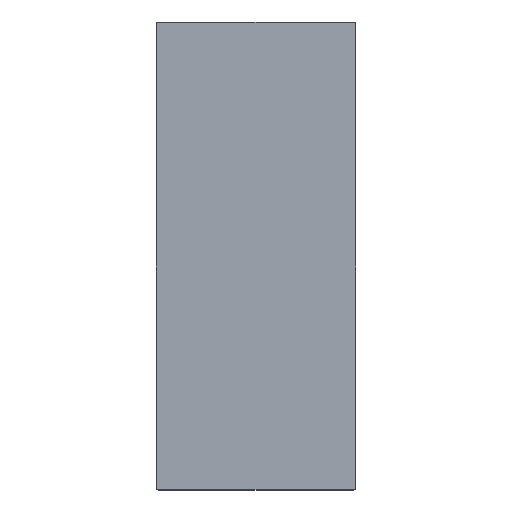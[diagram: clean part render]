
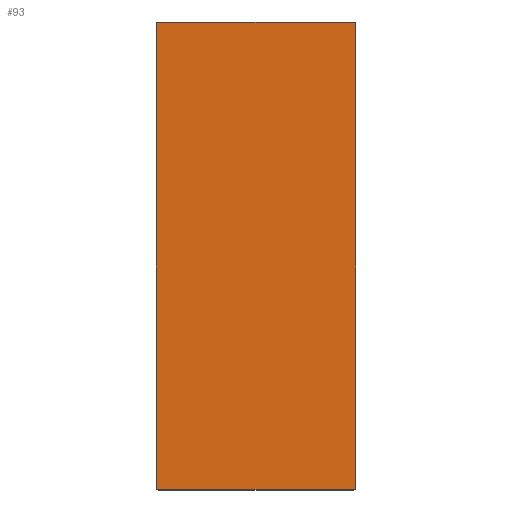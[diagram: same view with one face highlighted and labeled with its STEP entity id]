
A CAD part, top view. The second image highlights one B-rep face of the part: STEP entity #93.
In plain terms, the highlighted planar face has unit normal (0, 0, 1) as drawn and (0, 0, -1) by its records, which use the part's own axes.
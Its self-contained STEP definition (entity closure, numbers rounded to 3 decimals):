
#93 = ADVANCED_FACE( '', ( #210 ), #211, .F. );
#210 = FACE_OUTER_BOUND( '', #350, .T. );
#211 = PLANE( '', #351 );
#350 = EDGE_LOOP( '', ( #488, #489, #490, #491, #492, #493, #494, #495, #496, #497, #498, #499 ) );
#351 = AXIS2_PLACEMENT_3D( '', #500, #501, #502 );
#488 = ORIENTED_EDGE( '', *, *, #891, .T. );
#489 = ORIENTED_EDGE( '', *, *, #892, .F. );
#490 = ORIENTED_EDGE( '', *, *, #893, .T. );
#491 = ORIENTED_EDGE( '', *, *, #894, .T. );
#492 = ORIENTED_EDGE( '', *, *, #895, .T. );
#493 = ORIENTED_EDGE( '', *, *, #896, .F. );
#494 = ORIENTED_EDGE( '', *, *, #897, .T. );
#495 = ORIENTED_EDGE( '', *, *, #898, .T. );
#496 = ORIENTED_EDGE( '', *, *, #899, .F. );
#497 = ORIENTED_EDGE( '', *, *, #900, .F. );
#498 = ORIENTED_EDGE( '', *, *, #901, .T. );
#499 = ORIENTED_EDGE( '', *, *, #902, .T. );
#500 = CARTESIAN_POINT( '', ( 447., 1047., 0. ) );
#501 = DIRECTION( '', ( 0., 0., 1. ) );
#502 = DIRECTION( '', ( 1., 0., 0. ) );
#891 = EDGE_CURVE( '', #1061, #1062, #1063, .T. );
#892 = EDGE_CURVE( '', #1064, #1062, #1065, .T. );
#893 = EDGE_CURVE( '', #1064, #1066, #1067, .T. );
#894 = EDGE_CURVE( '', #1066, #1068, #1069, .T. );
#895 = EDGE_CURVE( '', #1068, #1070, #1071, .T. );
#896 = EDGE_CURVE( '', #1072, #1070, #1073, .T. );
#897 = EDGE_CURVE( '', #1072, #1074, #1075, .T. );
#898 = EDGE_CURVE( '', #1074, #1076, #1077, .T. );
#899 = EDGE_CURVE( '', #1078, #1076, #1079, .T. );
#900 = EDGE_CURVE( '', #1080, #1078, #1081, .T. );
#901 = EDGE_CURVE( '', #1080, #1082, #1083, .T. );
#902 = EDGE_CURVE( '', #1082, #1061, #1084, .T. );
#1061 = VERTEX_POINT( '', #1311 );
#1062 = VERTEX_POINT( '', #1312 );
#1063 = LINE( '', #1313, #1314 );
#1064 = VERTEX_POINT( '', #1315 );
#1065 = LINE( '', #1316, #1317 );
#1066 = VERTEX_POINT( '', #1318 );
#1067 = LINE( '', #1319, #1320 );
#1068 = VERTEX_POINT( '', #1321 );
#1069 = LINE( '', #1322, #1323 );
#1070 = VERTEX_POINT( '', #1324 );
#1071 = LINE( '', #1325, #1326 );
#1072 = VERTEX_POINT( '', #1327 );
#1073 = LINE( '', #1328, #1329 );
#1074 = VERTEX_POINT( '', #1330 );
#1075 = LINE( '', #1331, #1332 );
#1076 = VERTEX_POINT( '', #1333 );
#1077 = LINE( '', #1334, #1335 );
#1078 = VERTEX_POINT( '', #1336 );
#1079 = LINE( '', #1337, #1338 );
#1080 = VERTEX_POINT( '', #1339 );
#1081 = LINE( '', #1340, #1341 );
#1082 = VERTEX_POINT( '', #1342 );
#1083 = LINE( '', #1343, #1344 );
#1084 = LINE( '', #1345, #1346 );
#1311 = CARTESIAN_POINT( '', ( 447., -1043., 0. ) );
#1312 = CARTESIAN_POINT( '', ( 435., -1043., 0. ) );
#1313 = CARTESIAN_POINT( '', ( 447., -1043., 0. ) );
#1314 = VECTOR( '', #1654, 1000. );
#1315 = CARTESIAN_POINT( '', ( 435., -1047., 0. ) );
#1316 = CARTESIAN_POINT( '', ( 435., -1047., 0. ) );
#1317 = VECTOR( '', #1655, 1000. );
#1318 = CARTESIAN_POINT( '', ( -435., -1047., 0. ) );
#1319 = CARTESIAN_POINT( '', ( 435., -1047., 0. ) );
#1320 = VECTOR( '', #1656, 1000. );
#1321 = CARTESIAN_POINT( '', ( -435., -1043., 0. ) );
#1322 = CARTESIAN_POINT( '', ( -435., -1047., 0. ) );
#1323 = VECTOR( '', #1657, 1000. );
#1324 = CARTESIAN_POINT( '', ( -447., -1043., 0. ) );
#1325 = CARTESIAN_POINT( '', ( 447., -1043., 0. ) );
#1326 = VECTOR( '', #1658, 1000. );
#1327 = CARTESIAN_POINT( '', ( -447., 1043., 0. ) );
#1328 = CARTESIAN_POINT( '', ( -447., 1047., 0. ) );
#1329 = VECTOR( '', #1659, 1000. );
#1330 = CARTESIAN_POINT( '', ( -435., 1043., 0. ) );
#1331 = CARTESIAN_POINT( '', ( 447., 1043., 0. ) );
#1332 = VECTOR( '', #1660, 1000. );
#1333 = CARTESIAN_POINT( '', ( -435., 1047., 0. ) );
#1334 = CARTESIAN_POINT( '', ( -435., -1047., 0. ) );
#1335 = VECTOR( '', #1661, 1000. );
#1336 = CARTESIAN_POINT( '', ( 435., 1047., 0. ) );
#1337 = CARTESIAN_POINT( '', ( 435., 1047., 0. ) );
#1338 = VECTOR( '', #1662, 1000. );
#1339 = CARTESIAN_POINT( '', ( 435., 1043., 0. ) );
#1340 = CARTESIAN_POINT( '', ( 435., -1047., 0. ) );
#1341 = VECTOR( '', #1663, 1000. );
#1342 = CARTESIAN_POINT( '', ( 447., 1043., 0. ) );
#1343 = CARTESIAN_POINT( '', ( 447., 1043., 0. ) );
#1344 = VECTOR( '', #1664, 1000. );
#1345 = CARTESIAN_POINT( '', ( 447., 1047., 0. ) );
#1346 = VECTOR( '', #1665, 1000. );
#1654 = DIRECTION( '', ( -1., 0., 0. ) );
#1655 = DIRECTION( '', ( 0., 1., 0. ) );
#1656 = DIRECTION( '', ( -1., 0., 0. ) );
#1657 = DIRECTION( '', ( 0., 1., 0. ) );
#1658 = DIRECTION( '', ( -1., 0., 0. ) );
#1659 = DIRECTION( '', ( 0., -1., 0. ) );
#1660 = DIRECTION( '', ( 1., 0., 0. ) );
#1661 = DIRECTION( '', ( 0., 1., 0. ) );
#1662 = DIRECTION( '', ( -1., 0., 0. ) );
#1663 = DIRECTION( '', ( 0., 1., 0. ) );
#1664 = DIRECTION( '', ( 1., 0., 0. ) );
#1665 = DIRECTION( '', ( 0., -1., 0. ) );
